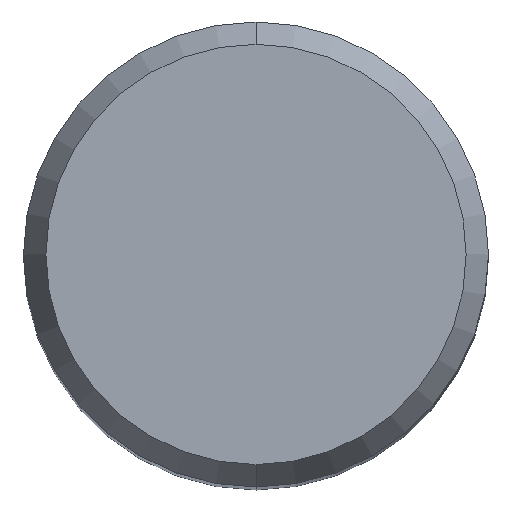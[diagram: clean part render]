
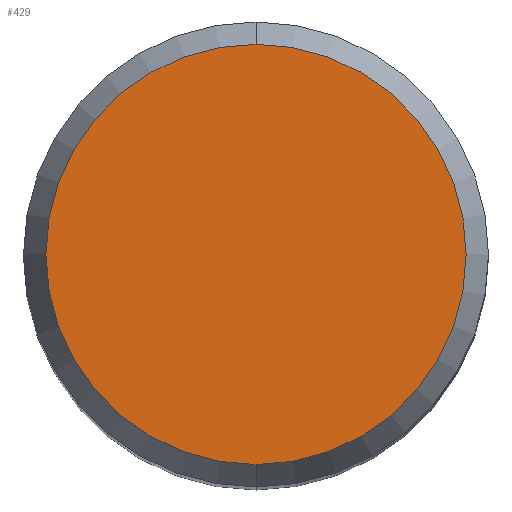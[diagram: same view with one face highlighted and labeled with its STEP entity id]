
A CAD part, top view. The second image highlights one B-rep face of the part: STEP entity #429.
In plain terms, the highlighted planar face has unit normal (0, 0, 1).
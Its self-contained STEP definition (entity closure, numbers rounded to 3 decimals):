
#187=EDGE_CURVE('',#225,#257,#480,.T.);
#225=VERTEX_POINT('',#520);
#257=VERTEX_POINT('',#555);
#403=EDGE_CURVE('',#257,#225,#718,.T.);
#429=ADVANCED_FACE('',(#746),#747,.T.);
#480=CIRCLE('',#799,5.423);
#520=CARTESIAN_POINT('',(0.,-5.423,0.0));
#555=CARTESIAN_POINT('',(0.0,5.423,0.0));
#718=CIRCLE('',#1323,5.423);
#746=FACE_OUTER_BOUND('',#1425,.T.);
#747=PLANE('',#1426);
#799=AXIS2_PLACEMENT_3D('',#1465,#1466,#1467);
#1323=AXIS2_PLACEMENT_3D('',#1732,#1733,#1734);
#1425=EDGE_LOOP('',(#1758,#1759));
#1426=AXIS2_PLACEMENT_3D('',#1760,#1761,#1762);
#1465=CARTESIAN_POINT('',(0.0,0.0,0.0));
#1466=DIRECTION('',(0.0,0.0,-1.0));
#1467=DIRECTION('',(0.0,1.0,0.0));
#1732=CARTESIAN_POINT('',(0.0,0.0,0.0));
#1733=DIRECTION('',(0.0,0.0,-1.0));
#1734=DIRECTION('',(0.0,1.0,0.0));
#1758=ORIENTED_EDGE('',*,*,#403,.F.);
#1759=ORIENTED_EDGE('',*,*,#187,.F.);
#1760=CARTESIAN_POINT('',(0.0,2.711,0.0));
#1761=DIRECTION('',(-0.0,0.0,1.0));
#1762=DIRECTION('',(0.0,-1.0,0.0));
